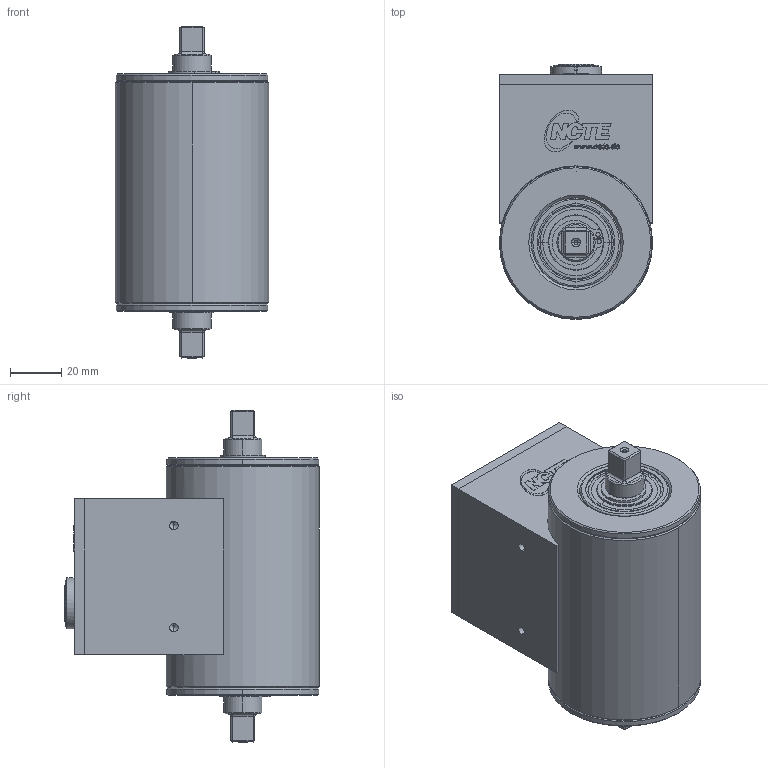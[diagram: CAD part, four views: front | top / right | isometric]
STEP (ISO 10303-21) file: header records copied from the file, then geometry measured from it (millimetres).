
FILE_DESCRIPTION (( 'STEP AP214' ), '1' );
FILE_NAME ('400007-ATS011_Sensor_Mb_50-100Nm_vierkant_ohne_WS_IP50.STEP', '2016-11-28T15:43:19', ( '' ), ( '' ), 'SwSTEP 2.0', 'SolidWorks 2016', '' );
FILE_SCHEMA (( 'AUTOMOTIVE_DESIGN' ));
Length unit declared in the file: millimetre
Products named in the file (26): 999999-ATM001_Tellerfeder_k_vorgespannt34,6x22,4x0,5_Standard; 400007-ATM018_Deckel_Elektronikgehäuse_Mb_50-100Nm; 999999-ATN172_Rillenkugellager_6202-2Z_Standard_5; 999999-ATE072_Folientaster beleuchtet_Standard; 999999-ATN172_Rillenkugellager_6202-2Z_Standard_10; 400007-ATS011_Sensor_Mb_50-100Nm_vierkant_ohne_WS_IP50; 999999-ATE042_Buchse-09-0132-90-12_12Pol_Standard; 999999-ATN172_Rillenkugellager_6202-2Z_Standard_11; 999999-ATN172_Rillenkugellager_6202-2Z_Standard_2; 999999-ATN172_Rillenkugellager_6202-2Z_Standard_4; 999999-ATN172_Rillenkugellager_6202-2Z_Standard_3; 400007-ATM002_Welle15mm_Mb_50-100_Nm_Vierkant; 400007-ATM009_Rohrgehaeuse_Mb_50-100Nm; 999999-ATN172_Rillenkugellager_6202-2Z_Standard_12; 999999-ATN172_Rillenkugellager_6202-2Z_Standard_8; 999999-ATN172_Rillenkugellager_6202-2Z_Standard_6; DIN 7991 - M3 x 10 --- 10S_DIN 7991 - M3 x 10 --- 10S; Passscheibe DIN 988_DIN 988-25x35x0.5; 400007-ATM015_Elektronikgehaeuse_Mb_50-100Nm; 999999-ATN172_Rillenkugellager_6202-2Z_Standard; 999999-ATN172_Rillenkugellager_6202-2Z_Standard_7; 400007-ATM012_Lagerdeckel_Mb-50-100Nm; Seegering DIN 471_Circlip DIN 471 - 15 x 1; Senkschraube mit Innensechskant DIN 7991_DIN 7991 - M4 x 10 --- 10S; 999999-ATN172_Rillenkugellager_6202-2Z_Standard_9
Assembly tree (33 placements, depth 3):
  400007-ATS011_Sensor_Mb_50-100Nm_vierkant_ohne_WS_IP50
    400007-ATM002_Welle15mm_Mb_50-100_Nm_Vierkant
    400007-ATM009_Rohrgehaeuse_Mb_50-100Nm
    400007-ATM012_Lagerdeckel_Mb-50-100Nm  x2
    400007-ATM015_Elektronikgehaeuse_Mb_50-100Nm
    Senkschraube mit Innensechskant DIN 7991_DIN 7991 - M4 x 10 --- 10S  x2
    DIN 7991 - M3 x 10 --- 10S_DIN 7991 - M3 x 10 --- 10S  x4
    999999-ATE042_Buchse-09-0132-90-12_12Pol_Standard
    999999-ATE072_Folientaster beleuchtet_Standard
    999999-ATM001_Tellerfeder_k_vorgespannt34,6x22,4x0,5_Standard
    Passscheibe DIN 988_DIN 988-25x35x0.5  x2
    Seegering DIN 471_Circlip DIN 471 - 15 x 1  x2
    400007-ATM018_Deckel_Elektronikgehäuse_Mb_50-100Nm
    999999-ATN172_Rillenkugellager_6202-2Z_Standard  x2
      999999-ATN172_Rillenkugellager_6202-2Z_Standard_10
      999999-ATN172_Rillenkugellager_6202-2Z_Standard_6
      999999-ATN172_Rillenkugellager_6202-2Z_Standard
      999999-ATN172_Rillenkugellager_6202-2Z_Standard_5
      999999-ATN172_Rillenkugellager_6202-2Z_Standard_2
      999999-ATN172_Rillenkugellager_6202-2Z_Standard_3
      999999-ATN172_Rillenkugellager_6202-2Z_Standard_8
      999999-ATN172_Rillenkugellager_6202-2Z_Standard_7
      999999-ATN172_Rillenkugellager_6202-2Z_Standard_11
      999999-ATN172_Rillenkugellager_6202-2Z_Standard_9
      999999-ATN172_Rillenkugellager_6202-2Z_Standard_12
      999999-ATN172_Rillenkugellager_6202-2Z_Standard_4
Bounding box: 60 x 99.8 x 130 mm (x, y, z)
Surface area: 112909.4 mm2 (no closed solid volume)
Topology: 0 solids, 43 shells, 1662 faces, 3973 edges, 2402 vertices
Faces by surface type: cone 562, cylinder 516, plane 385, bspline 99, torus 68, sphere 32
Entity records: 34275 total; most frequent: CARTESIAN_POINT 8832, DIRECTION 5175, ORIENTED_EDGE 4994, EDGE_CURVE 2497, AXIS2_PLACEMENT_3D 1969, VERTEX_POINT 1575, LINE 1237, VECTOR 1237
